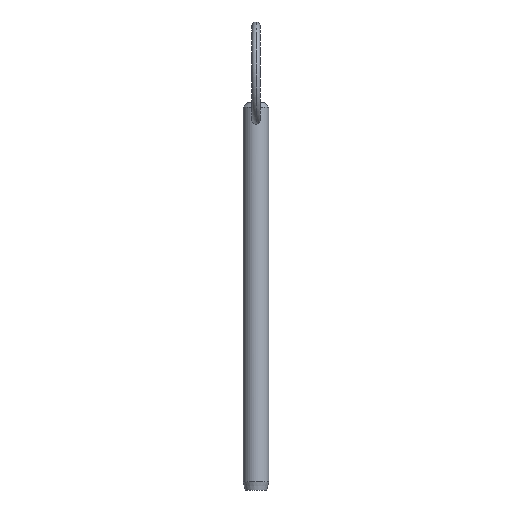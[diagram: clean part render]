
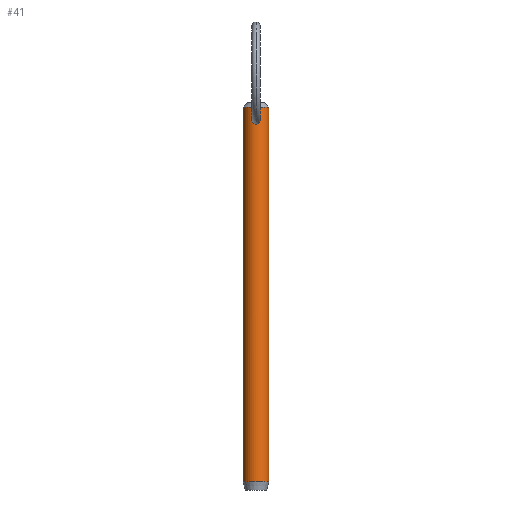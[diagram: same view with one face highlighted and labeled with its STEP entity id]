
A CAD part, front view. The second image highlights one B-rep face of the part: STEP entity #41.
In plain terms, the highlighted cylindrical face has radius 3.175 mm (diameter 6.35 mm), a partial arc.
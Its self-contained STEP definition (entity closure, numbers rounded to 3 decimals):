
#1 = CARTESIAN_POINT ( 'NONE',  ( 0.982, -3.02, 82.458 ) ) ;
#3 = CARTESIAN_POINT ( 'NONE',  ( 0.134, -3.175, 81.703 ) ) ;
#6 = CARTESIAN_POINT ( 'NONE',  ( 0., 0., -5.92 ) ) ;
#36 = ORIENTED_EDGE ( 'NONE', *, *, #135, .T. ) ;
#38 = CARTESIAN_POINT ( 'NONE',  ( -0.983, -3.02, 82.459 ) ) ;
#39 = CARTESIAN_POINT ( 'NONE',  ( -0.516, -3.135, 81.831 ) ) ;
#40 = CARTESIAN_POINT ( 'NONE',  ( -0.991, -3.016, 82.996 ) ) ;
#41 = ADVANCED_FACE ( 'NONE', ( #49, #274 ), #474, .T. ) ;
#49 = FACE_OUTER_BOUND ( 'NONE', #179, .T. ) ;
#54 = AXIS2_PLACEMENT_3D ( 'NONE', #6, #221, #336 ) ;
#59 = CARTESIAN_POINT ( 'NONE',  ( -3.175, 0., 85.88 ) ) ;
#71 = EDGE_CURVE ( 'NONE', #358, #240, #237, .T. ) ;
#72 = CARTESIAN_POINT ( 'NONE',  ( -0.615, -3.116, 83.553 ) ) ;
#77 = CARTESIAN_POINT ( 'NONE',  ( 0., -3.175, 83.782 ) ) ;
#92 = CARTESIAN_POINT ( 'NONE',  ( 0., -3.175, 81.703 ) ) ;
#98 = LINE ( 'NONE', #147, #396 ) ;
#108 = EDGE_CURVE ( 'NONE', #240, #358, #306, .T. ) ;
#111 = CARTESIAN_POINT ( 'NONE',  ( -0.629, -3.114, 81.905 ) ) ;
#112 = CARTESIAN_POINT ( 'NONE',  ( 0.888, -3.049, 82.209 ) ) ;
#116 = CARTESIAN_POINT ( 'NONE',  ( 0., -3.175, 81.703 ) ) ;
#130 = VECTOR ( 'NONE', #377, 1000. ) ;
#135 = EDGE_CURVE ( 'NONE', #382, #278, #98, .T. ) ;
#147 = CARTESIAN_POINT ( 'NONE',  ( -3.175, 0., 81.3 ) ) ;
#148 = ORIENTED_EDGE ( 'NONE', *, *, #258, .T. ) ;
#151 = CARTESIAN_POINT ( 'NONE',  ( 0.628, -3.114, 81.904 ) ) ;
#152 = CARTESIAN_POINT ( 'NONE',  ( 0.51, -3.136, 83.634 ) ) ;
#173 = VERTEX_POINT ( 'NONE', #453 ) ;
#179 = EDGE_LOOP ( 'NONE', ( #431, #148, #36, #228 ) ) ;
#183 = CARTESIAN_POINT ( 'NONE',  ( -0.067, -3.175, 83.782 ) ) ;
#186 = CARTESIAN_POINT ( 'NONE',  ( -0.328, -3.159, 83.721 ) ) ;
#203 = EDGE_LOOP ( 'NONE', ( #348, #447 ) ) ;
#205 = CARTESIAN_POINT ( 'NONE',  ( -3.175, 0., -5.92 ) ) ;
#207 = EDGE_CURVE ( 'NONE', #364, #173, #325, .T. ) ;
#212 = DIRECTION ( 'NONE',  ( -1., 0., 0. ) ) ;
#215 = CARTESIAN_POINT ( 'NONE',  ( 0., 0., 81.3 ) ) ;
#217 = CARTESIAN_POINT ( 'NONE',  ( -0.815, -3.07, 82.095 ) ) ;
#219 = CARTESIAN_POINT ( 'NONE',  ( -0.264, -3.165, 83.744 ) ) ;
#221 = DIRECTION ( 'NONE',  ( 0., 0., 1. ) ) ;
#223 = CARTESIAN_POINT ( 'NONE',  ( 0.268, -3.166, 81.729 ) ) ;
#228 = ORIENTED_EDGE ( 'NONE', *, *, #308, .T. ) ;
#231 = CARTESIAN_POINT ( 'NONE',  ( 0., -3.175, 83.782 ) ) ;
#237 = B_SPLINE_CURVE_WITH_KNOTS ( 'NONE', 3,
 ( #440, #249, #321, #39, #111, #217, #329, #38, #262, #40, #401, #72, #297, #186, #219, #261, #183, #77 ),
 .UNSPECIFIED., .F., .F.,
 ( 4, 2, 2, 2, 2, 2, 2, 2, 4 ),
 ( 0.006, 0.006, 0.007, 0.007, 0.008, 0.008, 0.009, 0.009, 0.009 ),
 .UNSPECIFIED. ) ;
#240 = VERTEX_POINT ( 'NONE', #231 ) ;
#249 = CARTESIAN_POINT ( 'NONE',  ( -0.134, -3.175, 81.703 ) ) ;
#258 = EDGE_CURVE ( 'NONE', #364, #382, #315, .T. ) ;
#259 = DIRECTION ( 'NONE',  ( 0., 0., -1. ) ) ;
#261 = CARTESIAN_POINT ( 'NONE',  ( -0.133, -3.173, 83.774 ) ) ;
#262 = CARTESIAN_POINT ( 'NONE',  ( -1.004, -3.012, 82.595 ) ) ;
#274 = FACE_BOUND ( 'NONE', #203, .T. ) ;
#278 = VERTEX_POINT ( 'NONE', #205 ) ;
#292 = CARTESIAN_POINT ( 'NONE',  ( 0.815, -3.07, 82.095 ) ) ;
#297 = CARTESIAN_POINT ( 'NONE',  ( -0.508, -3.136, 83.635 ) ) ;
#298 = CARTESIAN_POINT ( 'NONE',  ( 0.992, -3.016, 82.994 ) ) ;
#306 = B_SPLINE_CURVE_WITH_KNOTS ( 'NONE', 3,
 ( #450, #334, #365, #152, #332, #403, #298, #444, #1, #112, #292, #151, #445, #223, #3, #116 ),
 .UNSPECIFIED., .F., .F.,
 ( 4, 2, 2, 2, 2, 2, 2, 4 ),
 ( 0.003, 0.003, 0.004, 0.004, 0.005, 0.005, 0.006, 0.006 ),
 .UNSPECIFIED. ) ;
#308 = EDGE_CURVE ( 'NONE', #278, #173, #343, .T. ) ;
#315 = CIRCLE ( 'NONE', #478, 3.175 ) ;
#320 = CARTESIAN_POINT ( 'NONE',  ( 0., 0., 85.88 ) ) ;
#321 = CARTESIAN_POINT ( 'NONE',  ( -0.269, -3.166, 81.729 ) ) ;
#325 = LINE ( 'NONE', #412, #130 ) ;
#329 = CARTESIAN_POINT ( 'NONE',  ( -0.888, -3.049, 82.209 ) ) ;
#332 = CARTESIAN_POINT ( 'NONE',  ( 0.617, -3.116, 83.551 ) ) ;
#334 = CARTESIAN_POINT ( 'NONE',  ( 0.134, -3.175, 83.782 ) ) ;
#336 = DIRECTION ( 'NONE',  ( -1., 0., 0. ) ) ;
#343 = CIRCLE ( 'NONE', #54, 3.175 ) ;
#347 = CARTESIAN_POINT ( 'NONE',  ( 3.175, 0., 85.88 ) ) ;
#348 = ORIENTED_EDGE ( 'NONE', *, *, #108, .T. ) ;
#356 = DIRECTION ( 'NONE',  ( 0., 0., -1. ) ) ;
#358 = VERTEX_POINT ( 'NONE', #92 ) ;
#364 = VERTEX_POINT ( 'NONE', #347 ) ;
#365 = CARTESIAN_POINT ( 'NONE',  ( 0.269, -3.166, 83.75 ) ) ;
#377 = DIRECTION ( 'NONE',  ( 0., 0., -1. ) ) ;
#382 = VERTEX_POINT ( 'NONE', #59 ) ;
#386 = AXIS2_PLACEMENT_3D ( 'NONE', #215, #356, #212 ) ;
#387 = DIRECTION ( 'NONE',  ( 1., 0., 0. ) ) ;
#396 = VECTOR ( 'NONE', #259, 1000. ) ;
#401 = CARTESIAN_POINT ( 'NONE',  ( -0.882, -3.055, 83.26 ) ) ;
#403 = CARTESIAN_POINT ( 'NONE',  ( 0.884, -3.055, 83.257 ) ) ;
#412 = CARTESIAN_POINT ( 'NONE',  ( 3.175, 0., 81.3 ) ) ;
#424 = DIRECTION ( 'NONE',  ( 0., 0., -1. ) ) ;
#431 = ORIENTED_EDGE ( 'NONE', *, *, #207, .F. ) ;
#440 = CARTESIAN_POINT ( 'NONE',  ( 0., -3.175, 81.703 ) ) ;
#444 = CARTESIAN_POINT ( 'NONE',  ( 1.004, -3.012, 82.593 ) ) ;
#445 = CARTESIAN_POINT ( 'NONE',  ( 0.515, -3.135, 81.83 ) ) ;
#447 = ORIENTED_EDGE ( 'NONE', *, *, #71, .T. ) ;
#450 = CARTESIAN_POINT ( 'NONE',  ( 0., -3.175, 83.782 ) ) ;
#453 = CARTESIAN_POINT ( 'NONE',  ( 3.175, 0., -5.92 ) ) ;
#474 = CYLINDRICAL_SURFACE ( 'NONE', #386, 3.175 ) ;
#478 = AXIS2_PLACEMENT_3D ( 'NONE', #320, #424, #387 ) ;
